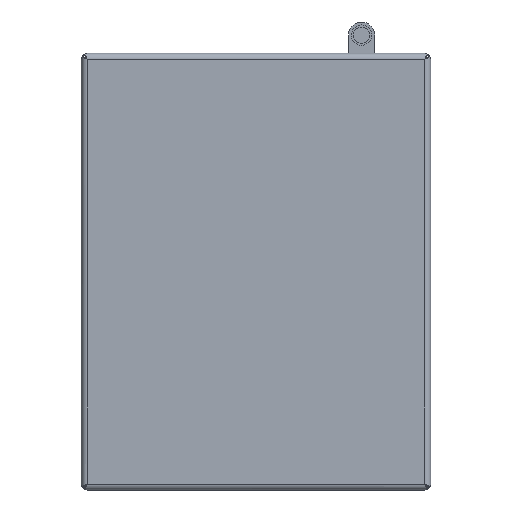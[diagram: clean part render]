
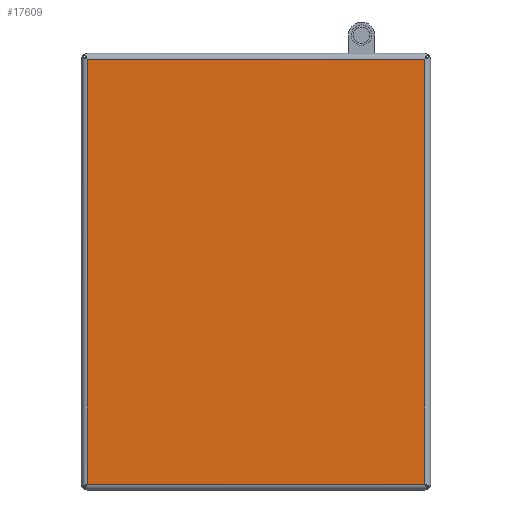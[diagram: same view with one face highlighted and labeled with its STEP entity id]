
A CAD part, front view. The second image highlights one B-rep face of the part: STEP entity #17609.
In plain terms, the highlighted planar face has unit normal (0, -1, 0).
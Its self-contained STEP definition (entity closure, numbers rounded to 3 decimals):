
#79=DIRECTION('',(-1.,0.,0.));
#80=VECTOR('',#79,231.9);
#81=CARTESIAN_POINT('',(115.95,-55.2,145.95));
#82=LINE('',#81,#80);
#119=DIRECTION('',(0.,0.,1.));
#120=VECTOR('',#119,291.9);
#121=CARTESIAN_POINT('',(115.95,-55.2,-145.95));
#122=LINE('',#121,#120);
#374=DIRECTION('',(0.,0.,-1.));
#375=VECTOR('',#374,291.9);
#376=CARTESIAN_POINT('',(-115.95,-55.2,145.95));
#377=LINE('',#376,#375);
#420=CARTESIAN_POINT('',(-115.95,-55.2,-145.95));
#422=DIRECTION('',(1.,0.,0.));
#423=VECTOR('',#422,231.9);
#424=CARTESIAN_POINT('',(-115.95,-55.2,-145.95));
#425=LINE('',#424,#423);
#426=CARTESIAN_POINT('',(115.95,-55.2,-145.95));
#14449=VERTEX_POINT('',#420);
#14453=VERTEX_POINT('',#426);
#14454=CARTESIAN_POINT('',(115.95,-55.2,145.95));
#14455=CARTESIAN_POINT('',(-115.95,-55.2,145.95));
#14456=VERTEX_POINT('',#14454);
#14457=VERTEX_POINT('',#14455);
#17595=CARTESIAN_POINT('',(0.,-55.2,0.));
#17596=DIRECTION('',(0.,1.,0.));
#17597=DIRECTION('',(0.,0.,1.));
#17598=AXIS2_PLACEMENT_3D('',#17595,#17596,#17597);
#17599=PLANE('',#17598);
#17600=ORIENTED_EDGE('',*,*,#17586,.F.);
#17602=ORIENTED_EDGE('',*,*,#17601,.F.);
#17604=ORIENTED_EDGE('',*,*,#17603,.F.);
#17606=ORIENTED_EDGE('',*,*,#17605,.F.);
#17607=EDGE_LOOP('',(#17600,#17602,#17604,#17606));
#17608=FACE_OUTER_BOUND('',#17607,.F.);
#17609=ADVANCED_FACE('',(#17608),#17599,.F.);
#17586=EDGE_CURVE('',#14456,#14457,#82,.T.);
#17601=EDGE_CURVE('',#14453,#14456,#122,.T.);
#17603=EDGE_CURVE('',#14449,#14453,#425,.T.);
#17605=EDGE_CURVE('',#14457,#14449,#377,.T.);
